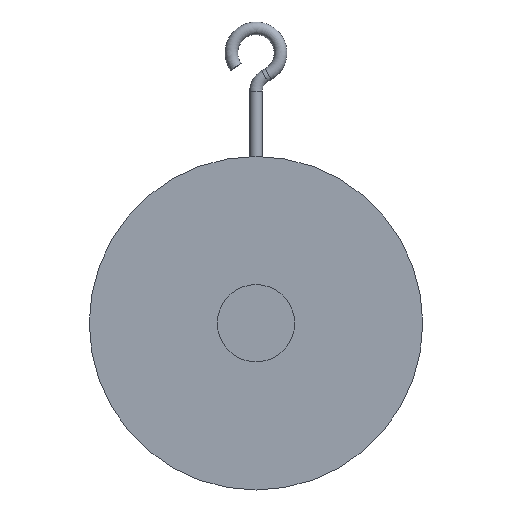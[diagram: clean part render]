
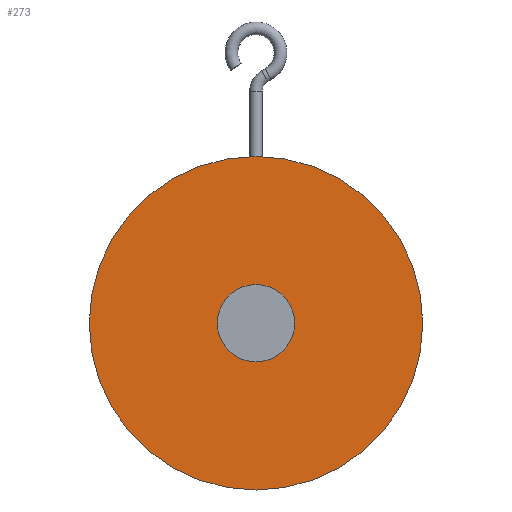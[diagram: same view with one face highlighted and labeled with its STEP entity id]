
A CAD part, front view. The second image highlights one B-rep face of the part: STEP entity #273.
In plain terms, the highlighted planar face has unit normal (0, -1, 0).
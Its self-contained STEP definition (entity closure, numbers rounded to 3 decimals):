
#273=ADVANCED_FACE('',(#525,#527),#529,.T.);
#525=FACE_BOUND('',#526,.T.);
#526=EDGE_LOOP('',(#702));
#527=FACE_BOUND('',#528,.T.);
#528=EDGE_LOOP('',(#703));
#529=PLANE('',#530);
#530=AXIS2_PLACEMENT_3D('',#531,#532,#533);
#531=CARTESIAN_POINT('',(0.,-7.,0.));
#532=DIRECTION('',(0.,-1.,0.));
#533=DIRECTION('',(0.,0.,1.));
#702=ORIENTED_EDGE('',*,*,#772,.F.);
#703=ORIENTED_EDGE('',*,*,#774,.T.);
#772=EDGE_CURVE('',#877,#877,#878,.T.);
#774=EDGE_CURVE('',#881,#881,#882,.T.);
#877=VERTEX_POINT('',#1336);
#878=CIRCLE('',#1337,47.5);
#881=VERTEX_POINT('',#1346);
#882=CIRCLE('',#1347,11.);
#1336=CARTESIAN_POINT('',(0.,-7.,47.5));
#1337=AXIS2_PLACEMENT_3D('',#1338,#1339,#1340);
#1338=CARTESIAN_POINT('',(0.,-7.,0.));
#1339=DIRECTION('',(0.,1.,0.));
#1340=DIRECTION('',(0.,0.,1.));
#1346=CARTESIAN_POINT('',(0.,-7.,11.));
#1347=AXIS2_PLACEMENT_3D('',#1348,#1349,#1350);
#1348=CARTESIAN_POINT('',(0.,-7.,0.));
#1349=DIRECTION('',(0.,1.,0.));
#1350=DIRECTION('',(0.,0.,1.));
